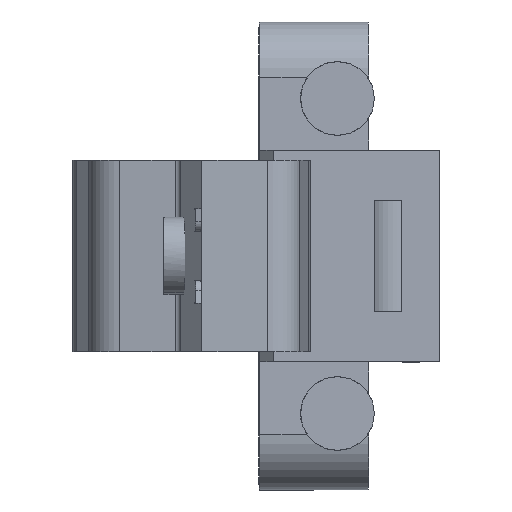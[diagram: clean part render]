
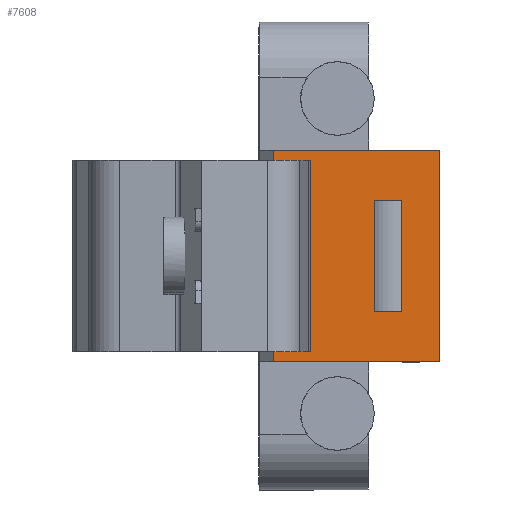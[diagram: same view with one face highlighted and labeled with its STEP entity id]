
A CAD part, left-side view. The second image highlights one B-rep face of the part: STEP entity #7608.
In plain terms, the highlighted planar face has unit normal (-1, -0.009, 0).
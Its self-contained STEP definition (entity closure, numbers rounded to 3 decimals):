
#91 = VECTOR ( 'NONE', #2651, 1000. ) ;
#143 = CARTESIAN_POINT ( 'NONE',  ( -2.826, -7.035, -4.95 ) ) ;
#304 = EDGE_CURVE ( 'NONE', #1622, #4622, #6278, .T. ) ;
#431 = FACE_BOUND ( 'NONE', #2154, .T. ) ;
#486 = EDGE_CURVE ( 'NONE', #1259, #4905, #1238, .T. ) ;
#522 = AXIS2_PLACEMENT_3D ( 'NONE', #6765, #4337, #2943 ) ;
#1010 = EDGE_CURVE ( 'NONE', #2125, #1259, #2856, .T. ) ;
#1136 = VECTOR ( 'NONE', #4497, 1000. ) ;
#1238 = LINE ( 'NONE', #5002, #4806 ) ;
#1259 = VERTEX_POINT ( 'NONE', #3575 ) ;
#1285 = VECTOR ( 'NONE', #5972, 1000. ) ;
#1358 = EDGE_CURVE ( 'NONE', #3849, #6809, #3498, .T. ) ;
#1395 = DIRECTION ( 'NONE',  ( 0., 0., 1. ) ) ;
#1622 = VERTEX_POINT ( 'NONE', #6460 ) ;
#1661 = ORIENTED_EDGE ( 'NONE', *, *, #6048, .T. ) ;
#1730 = DIRECTION ( 'NONE',  ( 0.009, -1., 0. ) ) ;
#1823 = FACE_OUTER_BOUND ( 'NONE', #3103, .T. ) ;
#1860 = PLANE ( 'NONE',  #522 ) ;
#1959 = CARTESIAN_POINT ( 'NONE',  ( -2.835, -6.005, 9.4 ) ) ;
#1995 = LINE ( 'NONE', #2698, #2989 ) ;
#2074 = LINE ( 'NONE', #5107, #1136 ) ;
#2125 = VERTEX_POINT ( 'NONE', #3690 ) ;
#2154 = EDGE_LOOP ( 'NONE', ( #7340, #2208, #2632, #2760 ) ) ;
#2208 = ORIENTED_EDGE ( 'NONE', *, *, #4373, .T. ) ;
#2632 = ORIENTED_EDGE ( 'NONE', *, *, #1358, .T. ) ;
#2651 = DIRECTION ( 'NONE',  ( -0.009, 1., 0. ) ) ;
#2698 = CARTESIAN_POINT ( 'NONE',  ( -2.734, -17.412, -13.674 ) ) ;
#2760 = ORIENTED_EDGE ( 'NONE', *, *, #5191, .T. ) ;
#2856 = LINE ( 'NONE', #4205, #6233 ) ;
#2943 = DIRECTION ( 'NONE',  ( 0., 0., -1. ) ) ;
#2989 = VECTOR ( 'NONE', #6442, 1000. ) ;
#3103 = EDGE_LOOP ( 'NONE', ( #1661, #3161, #3660, #4105 ) ) ;
#3161 = ORIENTED_EDGE ( 'NONE', *, *, #3423, .F. ) ;
#3423 = EDGE_CURVE ( 'NONE', #4905, #5330, #2074, .T. ) ;
#3498 = LINE ( 'NONE', #6543, #1285 ) ;
#3575 = CARTESIAN_POINT ( 'NONE',  ( -2.704, -20.804, 9.4 ) ) ;
#3660 = ORIENTED_EDGE ( 'NONE', *, *, #486, .F. ) ;
#3690 = CARTESIAN_POINT ( 'NONE',  ( -2.835, -6.005, 9.4 ) ) ;
#3849 = VERTEX_POINT ( 'NONE', #4873 ) ;
#3883 = VECTOR ( 'NONE', #6940, 1000. ) ;
#3979 = LINE ( 'NONE', #4515, #7014 ) ;
#4105 = ORIENTED_EDGE ( 'NONE', *, *, #1010, .F. ) ;
#4205 = CARTESIAN_POINT ( 'NONE',  ( -2.846, -4.805, 9.4 ) ) ;
#4337 = DIRECTION ( 'NONE',  ( 1., 0.009, 0. ) ) ;
#4373 = EDGE_CURVE ( 'NONE', #4622, #3849, #3979, .T. ) ;
#4497 = DIRECTION ( 'NONE',  ( -0.009, 1., 0. ) ) ;
#4515 = CARTESIAN_POINT ( 'NONE',  ( -2.755, -14.996, -13.674 ) ) ;
#4622 = VERTEX_POINT ( 'NONE', #7488 ) ;
#4806 = VECTOR ( 'NONE', #7406, 1000. ) ;
#4873 = CARTESIAN_POINT ( 'NONE',  ( -2.755, -14.996, 4.95 ) ) ;
#4905 = VERTEX_POINT ( 'NONE', #6337 ) ;
#5002 = CARTESIAN_POINT ( 'NONE',  ( -2.704, -20.804, 9.4 ) ) ;
#5107 = CARTESIAN_POINT ( 'NONE',  ( -2.846, -4.805, -9.4 ) ) ;
#5191 = EDGE_CURVE ( 'NONE', #6809, #1622, #1995, .T. ) ;
#5330 = VERTEX_POINT ( 'NONE', #6769 ) ;
#5972 = DIRECTION ( 'NONE',  ( 0.009, -1., 0. ) ) ;
#5988 = CARTESIAN_POINT ( 'NONE',  ( -2.734, -17.412, 4.95 ) ) ;
#6048 = EDGE_CURVE ( 'NONE', #2125, #5330, #7063, .T. ) ;
#6233 = VECTOR ( 'NONE', #1730, 1000. ) ;
#6278 = LINE ( 'NONE', #143, #91 ) ;
#6337 = CARTESIAN_POINT ( 'NONE',  ( -2.704, -20.804, -9.4 ) ) ;
#6442 = DIRECTION ( 'NONE',  ( 0., 0., -1. ) ) ;
#6460 = CARTESIAN_POINT ( 'NONE',  ( -2.734, -17.412, -4.95 ) ) ;
#6543 = CARTESIAN_POINT ( 'NONE',  ( -2.826, -7.035, 4.95 ) ) ;
#6765 = CARTESIAN_POINT ( 'NONE',  ( -2.704, -20.804, 9.4 ) ) ;
#6769 = CARTESIAN_POINT ( 'NONE',  ( -2.835, -6.005, -9.4 ) ) ;
#6809 = VERTEX_POINT ( 'NONE', #5988 ) ;
#6940 = DIRECTION ( 'NONE',  ( 0., 0., -1. ) ) ;
#7014 = VECTOR ( 'NONE', #1395, 1000. ) ;
#7063 = LINE ( 'NONE', #1959, #3883 ) ;
#7340 = ORIENTED_EDGE ( 'NONE', *, *, #304, .T. ) ;
#7406 = DIRECTION ( 'NONE',  ( 0., 0., -1. ) ) ;
#7488 = CARTESIAN_POINT ( 'NONE',  ( -2.755, -14.996, -4.95 ) ) ;
#7608 = ADVANCED_FACE ( 'NONE', ( #1823, #431 ), #1860, .F. ) ;
